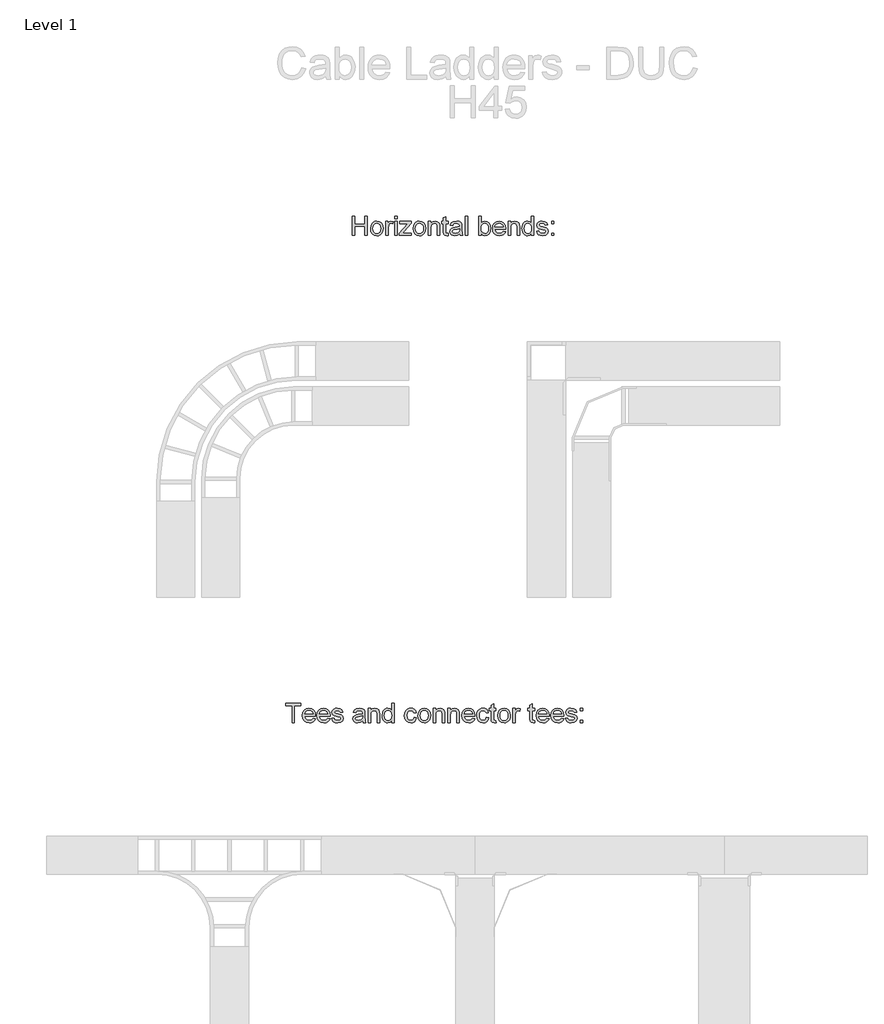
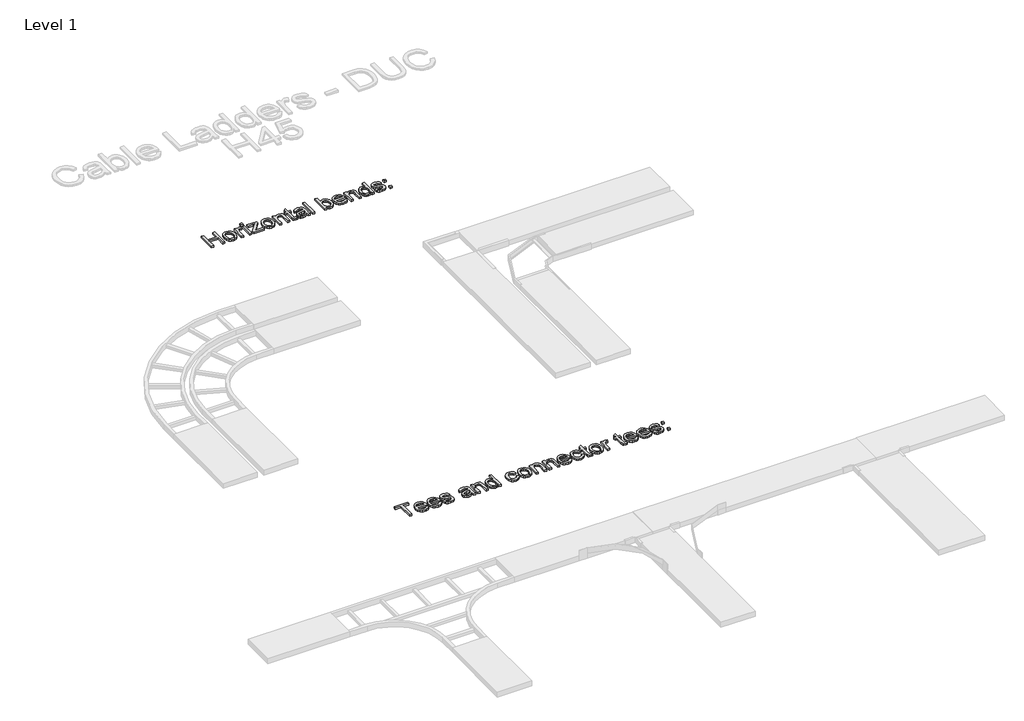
# One storey, part 62 of 106: 2 proxies.
"""IFC4 building model written with IfcOpenShell, lengths in millimetres."""

from ifc_helpers import new_model, si_unit, origin, origin_with_axes, place, context, project, spatial, polyline, outline, extrude, element, save

model = new_model("IFC4")

# Units and contexts
model_context = context("Model", 3, world=origin())
ifc_project = project(units=[si_unit("LENGTHUNIT", "METRE", prefix="MILLI")], contexts=[model_context])

# Site, building, storey
site = spatial("IfcSite", under=ifc_project)
building = spatial("IfcBuilding", under=site)
storey = spatial("IfcBuildingStorey", under=building, Name="Level 1", Elevation=0.0)

# Proxies
placement = place(None, origin())
element("IfcBuildingElementProxy", 1, Name="150mm Arial 2", ObjectType="150mm Arial 2", at=placement, inside=storey, context=model_context, shape_type="SweptSolid", body=[
    extrude(outline(polyline([(55165.8833156, 38674.2713912), (55165.8833156, 38824.9558564), (55184.7188737, 38824.9558564), (55184.7188737, 38763.7402924), (55264.7699959, 38763.7402924), (55264.7699959, 38824.9558564), (55283.605554, 38824.9558564), (55283.605554, 38674.2713912), (55264.7699959, 38674.2713912), (55264.7699959, 38744.9047343), (55184.7188737, 38744.9047343), (55184.7188737, 38674.2713912), (55165.8833156, 38674.2713912)])), origin_with_axes(), (0.0, 0.0, 1.0), 15.0),
    extrude(outline(polyline([(55309.5044465, 38729.6008433), (55313.5787396, 38756.281485), (55325.8016189, 38775.0342697), (55340.9031748, 38784.2221225), (55358.9845748, 38787.2847401), (55378.7720277, 38783.5553364), (55394.5771579, 38772.3671252), (55404.9376346, 38754.6030234), (55408.3911268, 38731.1459476), (55406.8644165, 38712.1172514), (55402.2842857, 38697.6318979), (55394.7840915, 38686.7839775), (55384.4971912, 38678.667581), (55372.2789104, 38673.6046051), (55358.9845748, 38671.9169464), (55338.9579987, 38675.6325546), (55323.1712626, 38686.779379), (55312.9211505, 38704.9159614), (55309.5044465, 38729.6008433)]), holes=[polyline([(55328.3400046, 38729.6376315), (55330.5197055, 38712.5908995), (55337.0588079, 38700.4461951), (55346.8996513, 38693.1759272), (55358.9845748, 38690.7525046), (55371.0143161, 38693.1897228), (55380.8367654, 38700.5013774), (55387.3758678, 38712.8070302), (55389.5555686, 38730.2262427), (55387.3620722, 38746.7763339), (55380.7815831, 38758.7554914), (55370.9453382, 38766.0257593), (55358.9845748, 38768.449182), (55346.8996513, 38766.0349564), (55337.0588079, 38758.7922796), (55330.5197055, 38746.6751664), (55328.3400046, 38729.6376315)])]), origin_with_axes(), (0.0, 0.0, 1.0), 15.0),
    extrude(outline(polyline([(55429.5811297, 38674.2713912), (55429.5811297, 38784.9302953), (55446.0622431, 38784.9302953), (55446.0622431, 38768.5595466), (55457.7608906, 38783.6427084), (55469.5331144, 38787.2847401), (55488.4422489, 38781.4722046), (55482.1514668, 38764.586421), (55468.907715, 38768.449182), (55458.2575312, 38764.7335738), (55451.4701084, 38754.4328779), (55448.4166879, 38732.4335346), (55448.4166879, 38674.2713912), (55429.5811297, 38674.2713912)])), origin_with_axes(), (0.0, 0.0, 1.0), 15.0),
    extrude(outline(polyline([(55500.2144728, 38806.1202983), (55500.2144728, 38824.9558564), (55519.0500309, 38824.9558564), (55519.0500309, 38806.1202983), (55500.2144728, 38806.1202983)])), origin_with_axes(), (0.0, 0.0, 1.0), 15.0),
    extrude(outline(polyline([(55500.2144728, 38674.2713912), (55500.2144728, 38784.9302953), (55519.0500309, 38784.9302953), (55519.0500309, 38674.2713912), (55500.2144728, 38674.2713912)])), origin_with_axes(), (0.0, 0.0, 1.0), 15.0),
    extrude(outline(polyline([(55535.5311443, 38674.2713912), (55535.5311443, 38692.0033034), (55600.5358929, 38766.0947372), (55581.2956645, 38766.0947372), (55540.2400339, 38766.0947372), (55540.2400339, 38784.9302953), (55627.3544903, 38784.9302953), (55627.3544903, 38768.9274285), (55569.7073817, 38703.186916), (55560.8782138, 38693.1069493), (55582.6568279, 38693.1069493), (55629.7089351, 38693.1069493), (55629.7089351, 38674.2713912), (55535.5311443, 38674.2713912)])), origin_with_axes(), (0.0, 0.0, 1.0), 15.0),
    extrude(outline(polyline([(55643.8356037, 38729.6008433), (55647.9098968, 38756.281485), (55660.1327761, 38775.0342697), (55675.234332, 38784.2221225), (55693.3157321, 38787.2847401), (55713.1031849, 38783.5553364), (55728.9083151, 38772.3671252), (55739.2687918, 38754.6030234), (55742.722284, 38731.1459476), (55741.1955737, 38712.1172514), (55736.6154429, 38697.6318979), (55729.1152487, 38686.7839775), (55718.8283484, 38678.667581), (55706.6100677, 38673.6046051), (55693.3157321, 38671.9169464), (55673.2891559, 38675.6325546), (55657.5024198, 38686.779379), (55647.2523077, 38704.9159614), (55643.8356037, 38729.6008433)]), holes=[polyline([(55662.6711619, 38729.6376315), (55664.8508627, 38712.5908995), (55671.3899651, 38700.4461951), (55681.2308085, 38693.1759272), (55693.3157321, 38690.7525046), (55705.3454733, 38693.1897228), (55715.1679226, 38700.5013774), (55721.707025, 38712.8070302), (55723.8867259, 38730.2262427), (55721.6932295, 38746.7763339), (55715.1127403, 38758.7554914), (55705.2764954, 38766.0257593), (55693.3157321, 38768.449182), (55681.2308085, 38766.0349564), (55671.3899651, 38758.7922796), (55664.8508627, 38746.6751664), (55662.6711619, 38729.6376315)])]), origin_with_axes(), (0.0, 0.0, 1.0), 15.0),
    extrude(outline(polyline([(55763.9122869, 38674.2713912), (55763.9122869, 38784.9302953), (55782.7478451, 38784.9302953), (55782.7478451, 38769.4792515), (55797.1504252, 38782.833368), (55816.8137178, 38787.2847401), (55834.6008123, 38783.6978907), (55846.7409182, 38774.2801116), (55852.3879068, 38760.4293545), (55853.3811882, 38742.2191957), (55853.3811882, 38674.2713912), (55834.54563, 38674.2713912), (55834.54563, 38739.6808099), (55832.3751262, 38756.3458643), (55824.7047866, 38765.1566381), (55811.7737345, 38768.449182), (55800.7418732, 38766.6005749), (55791.3378897, 38761.0547538), (55784.8953562, 38750.3401907), (55782.7478451, 38732.9853576), (55782.7478451, 38674.2713912), (55763.9122869, 38674.2713912)])), origin_with_axes(), (0.0, 0.0, 1.0), 15.0),
    extrude(outline(polyline([(55919.3056417, 38689.9799524), (55921.6600865, 38673.7195682), (55907.5702061, 38671.9169464), (55891.7880685, 38675.0439434), (55883.9153938, 38683.2477119), (55881.6345254, 38704.6216558), (55881.6345254, 38766.0947372), (55867.5078568, 38766.0947372), (55867.5078568, 38784.9302953), (55881.6345254, 38784.9302953), (55881.6345254, 38811.8224692), (55900.4700835, 38822.8957172), (55900.4700835, 38784.9302953), (55919.3056417, 38784.9302953), (55919.3056417, 38766.0947372), (55900.4700835, 38766.0947372), (55900.4700835, 38705.1734788), (55901.4633649, 38695.4613941), (55904.6823324, 38692.0216975), (55911.1018732, 38690.7525046), (55919.3056417, 38689.9799524)])), origin_with_axes(), (0.0, 0.0, 1.0), 15.0),
    extrude(outline(polyline([(56008.7745429, 38688.3980598), (55990.5092019, 38675.6325546), (55970.3308744, 38671.9169464), (55954.5901236, 38674.1518295), (55942.9788481, 38680.8564789), (55935.8189448, 38691.0376131), (55933.4323103, 38703.7019508), (55937.0375539, 38718.6011716), (55946.5105152, 38729.4169023), (55959.6990848, 38735.5973198), (55975.9962572, 38738.4300111), (56008.6641783, 38744.9047343), (56008.7745429, 38749.098589), (56007.4777589, 38757.5046926), (56003.5874068, 38763.0045284), (55994.8869976, 38767.0880186), (55982.7652859, 38768.449182), (55963.7089985, 38764.8255443), (55954.6223132, 38751.9680686), (55935.7867551, 38754.3225133), (55943.9353413, 38772.7166131), (55960.3428783, 38783.4955556), (55985.193307, 38787.2847401), (56008.0203848, 38783.9370139), (56020.9146488, 38775.5309104), (56026.6903961, 38762.747011), (56027.6101011, 38746.2658976), (56027.6101011, 38722.8318145), (56028.5665943, 38690.1087111), (56032.3189906, 38674.2713912), (56013.4834325, 38674.2713912), (56008.7745429, 38688.3980598)]), holes=[polyline([(56008.7745429, 38726.0691761), (55978.3874901, 38720.2934288), (55962.1822882, 38717.2400082), (55954.8430424, 38712.2736013), (55952.2678685, 38705.026326), (55957.8780689, 38694.8359947), (55974.3407882, 38690.7525046), (55993.3970755, 38695.259059), (56005.6843342, 38706.1667602), (56008.6641783, 38720.7348872), (56008.7745429, 38726.0691761)])]), origin_with_axes(), (0.0, 0.0, 1.0), 15.0),
    extrude(outline(polyline([(56053.5089935, 38674.2713912), (56053.5089935, 38824.9558564), (56072.3445517, 38824.9558564), (56072.3445517, 38674.2713912), (56053.5089935, 38674.2713912)])), origin_with_axes(), (0.0, 0.0, 1.0), 15.0),
    extrude(outline(polyline([(56178.2945663, 38674.2713912), (56159.4590082, 38674.2713912), (56159.4590082, 38824.9558564), (56178.2945663, 38824.9558564), (56178.2945663, 38769.0745813), (56191.4831358, 38782.7322004), (56207.8722787, 38787.2847401), (56226.7446251, 38783.1828559), (56241.3863285, 38771.6497553), (56250.3810433, 38753.715508), (56253.6367989, 38731.2563122), (56250.2660801, 38706.1115779), (56240.1539238, 38687.4047784), (56225.3144838, 38675.7889044), (56207.7619141, 38671.9169464), (56191.0140863, 38676.9109445), (56178.2945663, 38691.8929388), (56178.2945663, 38674.2713912)]), holes=[polyline([(56178.2945663, 38730.3733955), (56179.5821533, 38714.6648343), (56183.4449142, 38704.0330446), (56193.3133488, 38694.0726396), (56206.1432333, 38690.7525046), (56217.0141463, 38693.1989198), (56226.3031667, 38700.5381656), (56232.6767222, 38712.7242567), (56234.8012408, 38729.7112079), (56232.7640942, 38746.9464793), (56226.6526546, 38758.9946147), (56217.6533413, 38766.0855401), (56206.9525737, 38768.449182), (56196.0816608, 38766.0027667), (56186.7926404, 38758.6635209), (56180.4190848, 38746.698159), (56178.2945663, 38730.3733955)])]), origin_with_axes(), (0.0, 0.0, 1.0), 15.0),
    extrude(outline(polyline([(56352.30275, 38707.233618), (56370.7704262, 38704.8791732), (56364.1163606, 38690.9640367), (56353.4983665, 38680.5621733), (56339.1555672, 38674.0782531), (56321.327086, 38671.9169464), (56299.2265752, 38675.6463501), (56282.2212299, 38686.8345613), (56271.3779081, 38704.755013), (56267.7634675, 38728.6811383), (56271.4146963, 38753.4120054), (56282.3683827, 38771.9072727), (56299.1438017, 38783.4403733), (56320.2602282, 38787.2847401), (56340.7190657, 38783.4495703), (56357.0668219, 38771.9440609), (56367.7859835, 38753.4855818), (56371.3590374, 38728.7915029), (56371.2486728, 38723.7147313), (56286.5990257, 38723.7147313), (56289.8593799, 38709.6156539), (56297.4331504, 38699.2505787), (56308.3638442, 38692.8770231), (56321.694968, 38690.7525046), (56340.1626442, 38694.6888419), (56352.30275, 38707.233618)]), holes=[polyline([(56286.5990257, 38742.5502895), (56352.5234792, 38742.5502895), (56349.9758964, 38752.5014975), (56344.9818983, 38759.6200141), (56334.0006208, 38766.24189), (56320.1866518, 38768.449182), (56307.4901245, 38766.6879469), (56296.991692, 38761.4042417), (56289.693833, 38753.1682836), (56286.5990257, 38742.5502895)])]), origin_with_axes(), (0.0, 0.0, 1.0), 15.0),
    extrude(outline(polyline([(56390.1945955, 38674.2713912), (56390.1945955, 38784.9302953), (56409.0301537, 38784.9302953), (56409.0301537, 38769.4792515), (56423.4327338, 38782.833368), (56443.0960264, 38787.2847401), (56460.8831209, 38783.6978907), (56473.0232267, 38774.2801116), (56478.6702154, 38760.4293545), (56479.6634968, 38742.2191957), (56479.6634968, 38674.2713912), (56460.8279386, 38674.2713912), (56460.8279386, 38739.6808099), (56458.6574348, 38756.3458643), (56450.9870952, 38765.1566381), (56438.0560431, 38768.449182), (56427.0241818, 38766.6005749), (56417.6201983, 38761.0547538), (56411.1776648, 38750.3401907), (56409.0301537, 38732.9853576), (56409.0301537, 38674.2713912), (56390.1945955, 38674.2713912)])), origin_with_axes(), (0.0, 0.0, 1.0), 15.0),
    extrude(outline(polyline([(56573.8412875, 38674.2713912), (56573.8412875, 38692.0400916), (56561.3792849, 38676.9477327), (56544.1532105, 38671.9169464), (56531.9763165, 38673.7379623), (56520.829492, 38679.2010099), (56511.3933188, 38687.9244117), (56504.3483786, 38699.5264902), (56499.9613858, 38713.5381956), (56498.4990549, 38729.4904787), (56503.8885261, 38759.4728613), (56510.6207666, 38771.3646468), (56520.0385457, 38780.1110412), (56531.429092, 38785.4913154), (56544.0796341, 38787.2847401), (56561.4436643, 38782.1527863), (56573.8412875, 38768.8170639), (56573.8412875, 38824.9558564), (56592.6768457, 38824.9558564), (56592.6768457, 38674.2713912), (56573.8412875, 38674.2713912)]), holes=[polyline([(56517.3346131, 38729.5640551), (56519.4591316, 38712.5265202), (56525.8326871, 38700.4094069), (56535.0941164, 38693.1667302), (56545.8822559, 38690.7525046), (56556.6657969, 38693.0563656), (56565.6927013, 38699.9679485), (56571.804141, 38711.6160122), (56573.8412875, 38728.1293153), (56571.7673528, 38746.1831242), (56565.5455485, 38758.7003091), (56556.2887178, 38766.0119637), (56545.1097037, 38768.449182), (56534.2111996, 38766.1085328), (56525.2808642, 38759.0865852), (56519.3211758, 38747.0246543), (56517.3346131, 38729.5640551)])]), origin_with_axes(), (0.0, 0.0, 1.0), 15.0),
    extrude(outline(polyline([(56613.8668486, 38707.233618), (56632.7024067, 38709.5880627), (56635.6730539, 38701.531447), (56641.42121, 38695.6085469), (56661.3972024, 38690.7525046), (56680.6006425, 38695.2038767), (56686.8546364, 38705.6517254), (56685.2819409, 38710.4525854), (56680.5638543, 38714.1130113), (56661.1764732, 38719.4840884), (56632.8127713, 38728.6995324), (56620.4335422, 38739.4600807), (56616.2212934, 38754.6536071), (56619.6058077, 38768.6883052), (56628.8396458, 38779.4120654), (56640.8142047, 38784.9854776), (56657.0194066, 38787.2847401), (56679.9384549, 38783.5875261), (56694.5065819, 38773.5811358), (56700.9813051, 38756.6769581), (56682.1457469, 38754.3225133), (56675.0640185, 38764.7151797), (56658.4909346, 38768.449182), (56640.4647168, 38764.8807266), (56635.0568515, 38756.5665935), (56637.3009317, 38751.0851518), (56644.3274778, 38746.9280852), (56660.5510738, 38742.9181715), (56688.1974057, 38734.0522154), (56701.0364873, 38724.0090369), (56705.6901946, 38707.6382881), (56700.227147, 38689.6120704), (56684.4634035, 38676.5338655), (56661.139685, 38671.9169464), (56642.147777, 38674.1426325), (56628.2878228, 38680.8196907), (56619.0355906, 38691.8745447), (56613.8668486, 38707.233618)])), origin_with_axes(), (0.0, 0.0, 1.0), 15.0),
    extrude(outline(polyline([(56731.589087, 38766.0947372), (56731.589087, 38784.9302953), (56750.4246452, 38784.9302953), (56750.4246452, 38766.0947372), (56731.589087, 38766.0947372)])), origin_with_axes(), (0.0, 0.0, 1.0), 15.0),
    extrude(outline(polyline([(56731.589087, 38674.2713912), (56731.589087, 38693.1069493), (56750.4246452, 38693.1069493), (56750.4246452, 38674.2713912), (56731.589087, 38674.2713912)])), origin_with_axes(), (0.0, 0.0, 1.0), 15.0),
])
element("IfcBuildingElementProxy", 2, Name="150mm Arial 2", ObjectType="150mm Arial 2", at=placement, inside=storey, context=model_context, shape_type="SweptSolid", body=[
    extrude(outline(polyline([(54693.3276619, 34847.8476348), (54693.3276619, 34979.6965419), (54643.8843218, 34979.6965419), (54643.8843218, 34998.5321), (54761.6065602, 34998.5321), (54761.6065602, 34979.6965419), (54712.1632201, 34979.6965419), (54712.1632201, 34847.8476348), (54693.3276619, 34847.8476348)])), origin_with_axes(), (0.0, 0.0, 1.0), 15.0),
    extrude(outline(polyline([(54857.9180666, 34880.8098615), (54876.3857427, 34878.4554168), (54869.7316771, 34864.5402803), (54859.1136831, 34854.1384169), (54844.7708838, 34847.6544967), (54826.9424026, 34845.49319), (54804.8418917, 34849.2225937), (54787.8365465, 34860.4108049), (54776.9932247, 34878.3312566), (54773.3787841, 34902.2573819), (54777.0300129, 34926.988249), (54787.9836993, 34945.4835163), (54804.7591183, 34957.0166168), (54825.8755448, 34960.8609837), (54846.3343822, 34957.0258139), (54862.6821384, 34945.5203045), (54873.4013, 34927.0618254), (54876.9743539, 34902.3677465), (54876.8639893, 34897.2909749), (54792.2143422, 34897.2909749), (54795.4746964, 34883.1918975), (54803.048467, 34872.8268223), (54813.9791608, 34866.4532667), (54827.3102846, 34864.3287482), (54845.7779607, 34868.2650855), (54857.9180666, 34880.8098615)]), holes=[polyline([(54792.2143422, 34916.1265331), (54858.1387958, 34916.1265331), (54855.5912129, 34926.0777411), (54850.5972149, 34933.1962577), (54839.6159373, 34939.8181336), (54825.8019684, 34942.0254255), (54813.105441, 34940.2641905), (54802.6070086, 34934.9804853), (54795.3091495, 34926.7445272), (54792.2143422, 34916.1265331)])]), origin_with_axes(), (0.0, 0.0, 1.0), 15.0),
    extrude(outline(polyline([(54973.2858603, 34880.8098615), (54991.7535364, 34878.4554168), (54985.0994708, 34864.5402803), (54974.4814767, 34854.1384169), (54960.1386775, 34847.6544967), (54942.3101963, 34845.49319), (54920.2096854, 34849.2225937), (54903.2043402, 34860.4108049), (54892.3610184, 34878.3312566), (54888.7465778, 34902.2573819), (54892.3978066, 34926.988249), (54903.351493, 34945.4835163), (54920.126912, 34957.0166168), (54941.2433385, 34960.8609837), (54961.7021759, 34957.0258139), (54978.0499321, 34945.5203045), (54988.7690937, 34927.0618254), (54992.3421476, 34902.3677465), (54992.231783, 34897.2909749), (54907.5821359, 34897.2909749), (54910.8424901, 34883.1918975), (54918.4162607, 34872.8268223), (54929.3469545, 34866.4532667), (54942.6780783, 34864.3287482), (54961.1457544, 34868.2650855), (54973.2858603, 34880.8098615)]), holes=[polyline([(54907.5821359, 34916.1265331), (54973.5065895, 34916.1265331), (54970.9590066, 34926.0777411), (54965.9650086, 34933.1962577), (54954.983731, 34939.8181336), (54941.1697621, 34942.0254255), (54928.4732347, 34940.2641905), (54917.9748023, 34934.9804853), (54910.6769432, 34926.7445272), (54907.5821359, 34916.1265331)])]), origin_with_axes(), (0.0, 0.0, 1.0), 15.0),
    extrude(outline(polyline([(55004.1143715, 34880.8098615), (55022.9499296, 34883.1643063), (55025.9205767, 34875.1076906), (55031.6687329, 34869.1847905), (55051.6447252, 34864.3287482), (55070.8481654, 34868.7801203), (55077.1021593, 34879.227969), (55075.5294638, 34884.028829), (55070.8113772, 34887.6892549), (55051.423996, 34893.060332), (55023.0602942, 34902.275776), (55010.6810651, 34913.0363243), (55006.4688162, 34928.2298507), (55009.8533306, 34942.2645488), (55019.0871687, 34952.988309), (55031.0617276, 34958.5617212), (55047.2669295, 34960.8609837), (55070.1859778, 34957.1637696), (55084.7541048, 34947.1573794), (55091.2288279, 34930.2532017), (55072.3932698, 34927.8987569), (55065.3115413, 34938.2914233), (55048.7384575, 34942.0254255), (55030.7122397, 34938.4569702), (55025.3043744, 34930.1428371), (55027.5484545, 34924.6613954), (55034.5750007, 34920.5043288), (55050.7985966, 34916.4944151), (55078.4449286, 34907.628459), (55091.2840102, 34897.5852805), (55095.9377174, 34881.2145317), (55090.4746698, 34863.188314), (55074.7109263, 34850.1101091), (55051.3872078, 34845.49319), (55032.3952998, 34847.7188761), (55018.5353457, 34854.3959343), (55009.2831135, 34865.4507882), (55004.1143715, 34880.8098615)])), origin_with_axes(), (0.0, 0.0, 1.0), 15.0),
    extrude(outline(polyline([(55246.6221827, 34861.9743034), (55228.3568416, 34849.2087982), (55208.1785142, 34845.49319), (55192.4377633, 34847.7280731), (55180.8264878, 34854.4327225), (55173.6665845, 34864.6138567), (55171.2799501, 34877.2781944), (55174.8851936, 34892.1774152), (55184.358155, 34902.9931459), (55197.5467245, 34909.1735634), (55213.8438969, 34912.0062547), (55246.5118181, 34918.4809779), (55246.6221827, 34922.6748326), (55245.3253986, 34931.0809362), (55241.4350465, 34936.580772), (55232.7346374, 34940.6642622), (55220.6129256, 34942.0254255), (55201.5566383, 34938.4017879), (55192.469953, 34925.5443122), (55173.6343948, 34927.8987569), (55181.782981, 34946.2928567), (55198.190518, 34957.0717991), (55223.0409468, 34960.8609837), (55245.8680246, 34957.5132575), (55258.7622885, 34949.107154), (55264.5380358, 34936.3232546), (55265.4577408, 34919.8421412), (55265.4577408, 34896.4080581), (55266.414234, 34863.6849547), (55270.1666304, 34847.8476348), (55251.3310722, 34847.8476348), (55246.6221827, 34861.9743034)]), holes=[polyline([(55246.6221827, 34899.6454197), (55216.2351299, 34893.8696724), (55200.029928, 34890.8162518), (55192.6906822, 34885.8498449), (55190.1155082, 34878.6025696), (55195.7257086, 34868.4122383), (55212.1884279, 34864.3287482), (55231.2447153, 34868.8353026), (55243.5319739, 34879.7430038), (55246.5118181, 34894.3111308), (55246.6221827, 34899.6454197)])]), origin_with_axes(), (0.0, 0.0, 1.0), 15.0),
    extrude(outline(polyline([(55291.3566333, 34847.8476348), (55291.3566333, 34958.5065389), (55310.1921914, 34958.5065389), (55310.1921914, 34943.0554951), (55324.5947715, 34956.4096116), (55344.2580642, 34960.8609837), (55362.0451587, 34957.2741342), (55374.1852645, 34947.8563552), (55379.8322531, 34934.0055981), (55380.8255345, 34915.7954393), (55380.8255345, 34847.8476348), (55361.9899764, 34847.8476348), (55361.9899764, 34913.2570535), (55359.8194726, 34929.9221079), (55352.149133, 34938.7328817), (55339.2180809, 34942.0254255), (55328.1862195, 34940.1768185), (55318.782236, 34934.6309974), (55312.3397026, 34923.9164343), (55310.1921914, 34906.5616012), (55310.1921914, 34847.8476348), (55291.3566333, 34847.8476348)])), origin_with_axes(), (0.0, 0.0, 1.0), 15.0),
    extrude(outline(polyline([(55475.0033253, 34847.8476348), (55475.0033253, 34865.6163351), (55462.5413227, 34850.5239763), (55445.3152483, 34845.49319), (55433.1383542, 34847.3142059), (55421.9915298, 34852.7772535), (55412.5553566, 34861.5006553), (55405.5104164, 34873.1027337), (55401.1234236, 34887.1144392), (55399.6610927, 34903.0667223), (55405.0505639, 34933.0491049), (55411.7828044, 34944.9408904), (55421.2005835, 34953.6872848), (55432.5911298, 34959.067559), (55445.2416719, 34960.8609837), (55462.605702, 34955.7290299), (55475.0033253, 34942.3933075), (55475.0033253, 34998.5321), (55493.8388834, 34998.5321), (55493.8388834, 34847.8476348), (55475.0033253, 34847.8476348)]), holes=[polyline([(55418.4966508, 34903.1402987), (55420.6211693, 34886.1027638), (55426.9947249, 34873.9856505), (55436.2561541, 34866.7429738), (55447.0442936, 34864.3287482), (55457.8278346, 34866.6326092), (55466.8547391, 34873.5441921), (55472.9661787, 34885.1922558), (55475.0033253, 34901.7055589), (55472.9293905, 34919.7593678), (55466.7075863, 34932.2765527), (55457.4507556, 34939.5882073), (55446.2717415, 34942.0254255), (55435.3732373, 34939.6847764), (55426.4429019, 34932.6628288), (55420.4832136, 34920.6008979), (55418.4966508, 34903.1402987)])]), origin_with_axes(), (0.0, 0.0, 1.0), 15.0),
    extrude(outline(polyline([(55651.586683, 34887.8731959), (55670.4222411, 34885.5187511), (55665.1707256, 34868.7663247), (55655.3022911, 34856.1065856), (55641.7458396, 34848.1465389), (55625.4302731, 34845.49319), (55605.3944999, 34849.1950026), (55589.7273255, 34860.3004403), (55579.6151691, 34878.3220596), (55576.2444503, 34902.7724167), (55577.6837887, 34919.5340401), (55582.0018036, 34934.0607803), (55589.267473, 34945.7916175), (55599.5497747, 34954.1655314), (55611.850829, 34959.1871206), (55625.1727557, 34960.8609837), (55641.0882505, 34958.5617212), (55653.812369, 34951.6639338), (55662.940441, 34940.5355035), (55668.0677963, 34925.5443122), (55649.2322382, 34923.1898674), (55640.4950408, 34937.2981419), (55625.3199085, 34942.0254255), (55613.147613, 34939.6985719), (55603.4861121, 34932.7180111), (55597.1815344, 34920.7066639), (55595.0800085, 34903.2874515), (55597.1355492, 34885.6337142), (55603.3021711, 34873.5809803), (55612.788928, 34866.6418062), (55624.8048737, 34864.3287482), (55634.5583451, 34865.772685), (55642.55518, 34870.1044955), (55648.372314, 34877.4345442), (55651.586683, 34887.8731959)])), origin_with_axes(), (0.0, 0.0, 1.0), 15.0),
    extrude(outline(polyline([(55682.194465, 34903.1770869), (55686.2687581, 34929.8577286), (55698.4916373, 34948.6105133), (55713.5931932, 34957.7983661), (55731.6745933, 34960.8609837), (55751.4620461, 34957.13158), (55767.2671763, 34945.9433688), (55777.627653, 34928.179267), (55781.0811453, 34904.7221912), (55779.554435, 34885.693495), (55774.9743041, 34871.2081415), (55767.47411, 34860.3602211), (55757.1872097, 34852.2438246), (55744.9689289, 34847.1808487), (55731.6745933, 34845.49319), (55711.6480172, 34849.2087982), (55695.8612811, 34860.3556226), (55685.611169, 34878.492205), (55682.194465, 34903.1770869)]), holes=[polyline([(55701.0300231, 34903.2138751), (55703.2097239, 34886.1671431), (55709.7488264, 34874.0224387), (55719.5896698, 34866.7521708), (55731.6745933, 34864.3287482), (55743.7043346, 34866.7659664), (55753.5267838, 34874.077621), (55760.0658863, 34886.3832738), (55762.2455871, 34903.8024862), (55760.0520907, 34920.3525775), (55753.4716015, 34932.331735), (55743.6353567, 34939.6020029), (55731.6745933, 34942.0254255), (55719.5896698, 34939.6112), (55709.7488264, 34932.3685232), (55703.2097239, 34920.25141), (55701.0300231, 34903.2138751)])]), origin_with_axes(), (0.0, 0.0, 1.0), 15.0),
    extrude(outline(polyline([(55802.2711482, 34847.8476348), (55802.2711482, 34958.5065389), (55821.1067063, 34958.5065389), (55821.1067063, 34943.0554951), (55835.5092865, 34956.4096116), (55855.1725791, 34960.8609837), (55872.9596736, 34957.2741342), (55885.0997794, 34947.8563552), (55890.746768, 34934.0055981), (55891.7400494, 34915.7954393), (55891.7400494, 34847.8476348), (55872.9044913, 34847.8476348), (55872.9044913, 34913.2570535), (55870.7339875, 34929.9221079), (55863.0636479, 34938.7328817), (55850.1325958, 34942.0254255), (55839.1007344, 34940.1768185), (55829.6967509, 34934.6309974), (55823.2542175, 34923.9164343), (55821.1067063, 34906.5616012), (55821.1067063, 34847.8476348), (55802.2711482, 34847.8476348)])), origin_with_axes(), (0.0, 0.0, 1.0), 15.0),
    extrude(outline(polyline([(55917.6389419, 34847.8476348), (55917.6389419, 34958.5065389), (55936.4745, 34958.5065389), (55936.4745, 34943.0554951), (55950.8770801, 34956.4096116), (55970.5403728, 34960.8609837), (55988.3274672, 34957.2741342), (56000.4675731, 34947.8563552), (56006.1145617, 34934.0055981), (56007.1078431, 34915.7954393), (56007.1078431, 34847.8476348), (55988.2722849, 34847.8476348), (55988.2722849, 34913.2570535), (55986.1017812, 34929.9221079), (55978.4314416, 34938.7328817), (55965.5003894, 34942.0254255), (55954.4685281, 34940.1768185), (55945.0645446, 34934.6309974), (55938.6220112, 34923.9164343), (55936.4745, 34906.5616012), (55936.4745, 34847.8476348), (55917.6389419, 34847.8476348)])), origin_with_axes(), (0.0, 0.0, 1.0), 15.0),
    extrude(outline(polyline([(56110.4826837, 34880.8098615), (56128.9503599, 34878.4554168), (56122.2962943, 34864.5402803), (56111.6783002, 34854.1384169), (56097.3355009, 34847.6544967), (56079.5070198, 34845.49319), (56057.4065089, 34849.2225937), (56040.4011637, 34860.4108049), (56029.5578419, 34878.3312566), (56025.9434013, 34902.2573819), (56029.5946301, 34926.988249), (56040.5483165, 34945.4835163), (56057.3237354, 34957.0166168), (56078.440162, 34960.8609837), (56098.8989994, 34957.0258139), (56115.2467556, 34945.5203045), (56125.9659172, 34927.0618254), (56129.5389711, 34902.3677465), (56129.4286065, 34897.2909749), (56044.7789594, 34897.2909749), (56048.0393136, 34883.1918975), (56055.6130842, 34872.8268223), (56066.5437779, 34866.4532667), (56079.8749017, 34864.3287482), (56098.3425779, 34868.2650855), (56110.4826837, 34880.8098615)]), holes=[polyline([(56044.7789594, 34916.1265331), (56110.7034129, 34916.1265331), (56108.1558301, 34926.0777411), (56103.161832, 34933.1962577), (56092.1805545, 34939.8181336), (56078.3665856, 34942.0254255), (56065.6700582, 34940.2641905), (56055.1716258, 34934.9804853), (56047.8737667, 34926.7445272), (56044.7789594, 34916.1265331)])]), origin_with_axes(), (0.0, 0.0, 1.0), 15.0),
    extrude(outline(polyline([(56219.0078723, 34887.8731959), (56237.8434305, 34885.5187511), (56232.591915, 34868.7663247), (56222.7234805, 34856.1065856), (56209.167029, 34848.1465389), (56192.8514625, 34845.49319), (56172.8156893, 34849.1950026), (56157.1485148, 34860.3004403), (56147.0363585, 34878.3220596), (56143.6656397, 34902.7724167), (56145.104978, 34919.5340401), (56149.4229929, 34934.0607803), (56156.6886623, 34945.7916175), (56166.9709641, 34954.1655314), (56179.2720183, 34959.1871206), (56192.5939451, 34960.8609837), (56208.5094399, 34958.5617212), (56221.2335584, 34951.6639338), (56230.3616304, 34940.5355035), (56235.4889857, 34925.5443122), (56216.6534276, 34923.1898674), (56207.9162302, 34937.2981419), (56192.7410979, 34942.0254255), (56180.5688024, 34939.6985719), (56170.9073015, 34932.7180111), (56164.6027238, 34920.7066639), (56162.5011979, 34903.2874515), (56164.5567385, 34885.6337142), (56170.7233605, 34873.5809803), (56180.2101174, 34866.6418062), (56192.2260631, 34864.3287482), (56201.9795345, 34865.772685), (56209.9763693, 34870.1044955), (56215.7935034, 34877.4345442), (56219.0078723, 34887.8731959)])), origin_with_axes(), (0.0, 0.0, 1.0), 15.0),
    extrude(outline(polyline([(56294.3501049, 34863.556196), (56296.7045497, 34847.2958118), (56282.6146693, 34845.49319), (56266.8325317, 34848.620187), (56258.959857, 34856.8239555), (56256.6789886, 34878.1978994), (56256.6789886, 34939.6709808), (56242.55232, 34939.6709808), (56242.55232, 34958.5065389), (56256.6789886, 34958.5065389), (56256.6789886, 34985.3987128), (56275.5145468, 34996.4719608), (56275.5145468, 34958.5065389), (56294.3501049, 34958.5065389), (56294.3501049, 34939.6709808), (56275.5145468, 34939.6709808), (56275.5145468, 34878.7497224), (56276.5078282, 34869.0376377), (56279.7267956, 34865.597941), (56286.1463364, 34864.3287482), (56294.3501049, 34863.556196)])), origin_with_axes(), (0.0, 0.0, 1.0), 15.0),
    extrude(outline(polyline([(56308.4767735, 34903.1770869), (56312.5510666, 34929.8577286), (56324.7739459, 34948.6105133), (56339.8755018, 34957.7983661), (56357.9569019, 34960.8609837), (56377.7443547, 34957.13158), (56393.5494849, 34945.9433688), (56403.9099616, 34928.179267), (56407.3634539, 34904.7221912), (56405.8367436, 34885.693495), (56401.2566127, 34871.2081415), (56393.7564186, 34860.3602211), (56383.4695183, 34852.2438246), (56371.2512375, 34847.1808487), (56357.9569019, 34845.49319), (56337.9303258, 34849.2087982), (56322.1435897, 34860.3556226), (56311.8934776, 34878.492205), (56308.4767735, 34903.1770869)]), holes=[polyline([(56327.3123317, 34903.2138751), (56329.4920325, 34886.1671431), (56336.031135, 34874.0224387), (56345.8719784, 34866.7521708), (56357.9569019, 34864.3287482), (56369.9866431, 34866.7659664), (56379.8090924, 34874.077621), (56386.3481949, 34886.3832738), (56388.5278957, 34903.8024862), (56386.3343993, 34920.3525775), (56379.7539101, 34932.331735), (56369.9176653, 34939.6020029), (56357.9569019, 34942.0254255), (56345.8719784, 34939.6112), (56336.031135, 34932.3685232), (56329.4920325, 34920.25141), (56327.3123317, 34903.2138751)])]), origin_with_axes(), (0.0, 0.0, 1.0), 15.0),
    extrude(outline(polyline([(56428.5534568, 34847.8476348), (56428.5534568, 34958.5065389), (56445.0345702, 34958.5065389), (56445.0345702, 34942.1357901), (56456.7332176, 34957.2189519), (56468.5054415, 34960.8609837), (56487.414576, 34955.0484482), (56481.1237939, 34938.1626646), (56467.8800421, 34942.0254255), (56457.2298583, 34938.3098174), (56450.4424355, 34928.0091215), (56447.3890149, 34906.0097782), (56447.3890149, 34847.8476348), (56428.5534568, 34847.8476348)])), origin_with_axes(), (0.0, 0.0, 1.0), 15.0),
    extrude(outline(polyline([(56598.0734802, 34863.556196), (56600.4279249, 34847.2958118), (56586.3380445, 34845.49319), (56570.5559069, 34848.620187), (56562.6832322, 34856.8239555), (56560.4023638, 34878.1978994), (56560.4023638, 34939.6709808), (56546.2756952, 34939.6709808), (56546.2756952, 34958.5065389), (56560.4023638, 34958.5065389), (56560.4023638, 34985.3987128), (56579.237922, 34996.4719608), (56579.237922, 34958.5065389), (56598.0734802, 34958.5065389), (56598.0734802, 34939.6709808), (56579.237922, 34939.6709808), (56579.237922, 34878.7497224), (56580.2312034, 34869.0376377), (56583.4501708, 34865.597941), (56589.8697117, 34864.3287482), (56598.0734802, 34863.556196)])), origin_with_axes(), (0.0, 0.0, 1.0), 15.0),
    extrude(outline(polyline([(56694.3849865, 34880.8098615), (56712.8526626, 34878.4554168), (56706.1985971, 34864.5402803), (56695.580603, 34854.1384169), (56681.2378037, 34847.6544967), (56663.4093225, 34845.49319), (56641.3088116, 34849.2225937), (56624.3034664, 34860.4108049), (56613.4601446, 34878.3312566), (56609.845704, 34902.2573819), (56613.4969328, 34926.988249), (56624.4506192, 34945.4835163), (56641.2260382, 34957.0166168), (56662.3424647, 34960.8609837), (56682.8013022, 34957.0258139), (56699.1490583, 34945.5203045), (56709.86822, 34927.0618254), (56713.4412738, 34902.3677465), (56713.3309092, 34897.2909749), (56628.6812622, 34897.2909749), (56631.9416163, 34883.1918975), (56639.5153869, 34872.8268223), (56650.4460807, 34866.4532667), (56663.7772045, 34864.3287482), (56682.2448806, 34868.2650855), (56694.3849865, 34880.8098615)]), holes=[polyline([(56628.6812622, 34916.1265331), (56694.6057157, 34916.1265331), (56692.0581329, 34926.0777411), (56687.0641348, 34933.1962577), (56676.0828572, 34939.8181336), (56662.2688883, 34942.0254255), (56649.572361, 34940.2641905), (56639.0739285, 34934.9804853), (56631.7760694, 34926.7445272), (56628.6812622, 34916.1265331)])]), origin_with_axes(), (0.0, 0.0, 1.0), 15.0),
    extrude(outline(polyline([(56809.7527802, 34880.8098615), (56828.2204563, 34878.4554168), (56821.5663907, 34864.5402803), (56810.9483967, 34854.1384169), (56796.6055974, 34847.6544967), (56778.7771162, 34845.49319), (56756.6766053, 34849.2225937), (56739.6712601, 34860.4108049), (56728.8279383, 34878.3312566), (56725.2134977, 34902.2573819), (56728.8647265, 34926.988249), (56739.8184129, 34945.4835163), (56756.5938319, 34957.0166168), (56777.7102584, 34960.8609837), (56798.1690959, 34957.0258139), (56814.516852, 34945.5203045), (56825.2360136, 34927.0618254), (56828.8090675, 34902.3677465), (56828.6987029, 34897.2909749), (56744.0490558, 34897.2909749), (56747.30941, 34883.1918975), (56754.8831806, 34872.8268223), (56765.8138744, 34866.4532667), (56779.1449982, 34864.3287482), (56797.6126743, 34868.2650855), (56809.7527802, 34880.8098615)]), holes=[polyline([(56744.0490558, 34916.1265331), (56809.9735094, 34916.1265331), (56807.4259266, 34926.0777411), (56802.4319285, 34933.1962577), (56791.4506509, 34939.8181336), (56777.636682, 34942.0254255), (56764.9401546, 34940.2641905), (56754.4417222, 34934.9804853), (56747.1438631, 34926.7445272), (56744.0490558, 34916.1265331)])]), origin_with_axes(), (0.0, 0.0, 1.0), 15.0),
    extrude(outline(polyline([(56840.5812914, 34880.8098615), (56859.4168495, 34883.1643063), (56862.3874966, 34875.1076906), (56868.1356528, 34869.1847905), (56888.1116452, 34864.3287482), (56907.3150853, 34868.7801203), (56913.5690792, 34879.227969), (56911.9963837, 34884.028829), (56907.2782971, 34887.6892549), (56887.890916, 34893.060332), (56859.5272141, 34902.275776), (56847.147985, 34913.0363243), (56842.9357361, 34928.2298507), (56846.3202505, 34942.2645488), (56855.5540886, 34952.988309), (56867.5286475, 34958.5617212), (56883.7338494, 34960.8609837), (56906.6528977, 34957.1637696), (56921.2210247, 34947.1573794), (56927.6957478, 34930.2532017), (56908.8601897, 34927.8987569), (56901.7784613, 34938.2914233), (56885.2053774, 34942.0254255), (56867.1791596, 34938.4569702), (56861.7712943, 34930.1428371), (56864.0153745, 34924.6613954), (56871.0419206, 34920.5043288), (56887.2655166, 34916.4944151), (56914.9118485, 34907.628459), (56927.7509301, 34897.5852805), (56932.4046374, 34881.2145317), (56926.9415897, 34863.188314), (56911.1778462, 34850.1101091), (56887.8541278, 34845.49319), (56868.8622198, 34847.7188761), (56855.0022656, 34854.3959343), (56845.7500334, 34865.4507882), (56840.5812914, 34880.8098615)])), origin_with_axes(), (0.0, 0.0, 1.0), 15.0),
    extrude(outline(polyline([(56958.3035298, 34939.6709808), (56958.3035298, 34958.5065389), (56977.139088, 34958.5065389), (56977.139088, 34939.6709808), (56958.3035298, 34939.6709808)])), origin_with_axes(), (0.0, 0.0, 1.0), 15.0),
    extrude(outline(polyline([(56958.3035298, 34847.8476348), (56958.3035298, 34866.6831929), (56977.139088, 34866.6831929), (56977.139088, 34847.8476348), (56958.3035298, 34847.8476348)])), origin_with_axes(), (0.0, 0.0, 1.0), 15.0),
])

save(model, "model.ifc")
